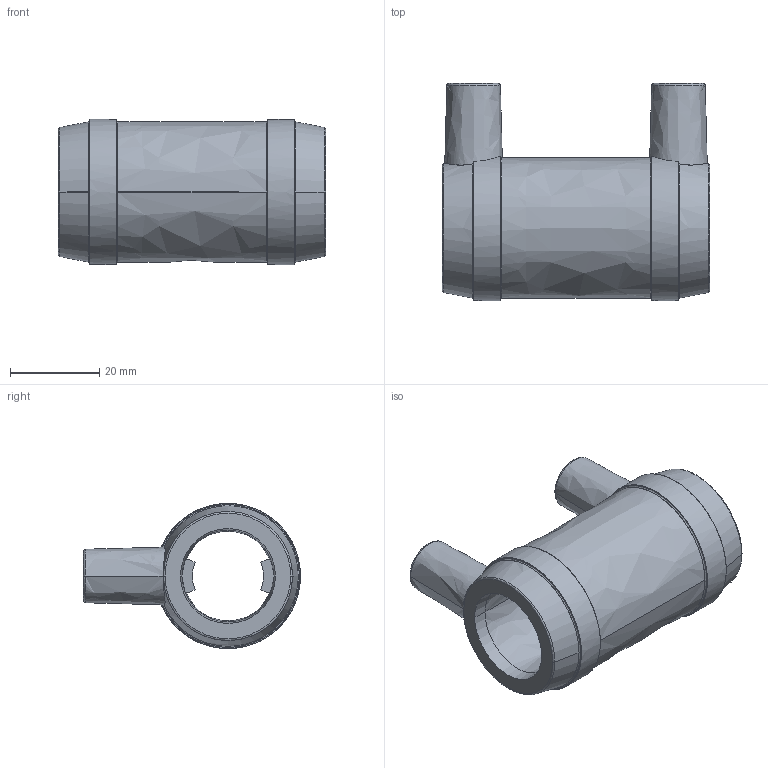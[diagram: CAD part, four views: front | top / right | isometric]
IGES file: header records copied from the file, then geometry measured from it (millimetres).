
Start section:  PTC IGES file: mb_d020_01.igs
Global section: file name: mb_d020_01.igs; native system: Pro/ENGINEER by Parametric Technology Corporation; preprocessor: 2011490; author: mtunjic; organization: Unknown; date: 20130805.164236; units: millimetre
Bounding box: 60 x 48.75 x 32.59 mm (x, y, z)
Surface area: 12034.9 mm2 (no closed solid volume)
Topology: 0 solids, 0 shells, 185 faces, 956 edges, 956 vertices
Faces by surface type: bspline 185
